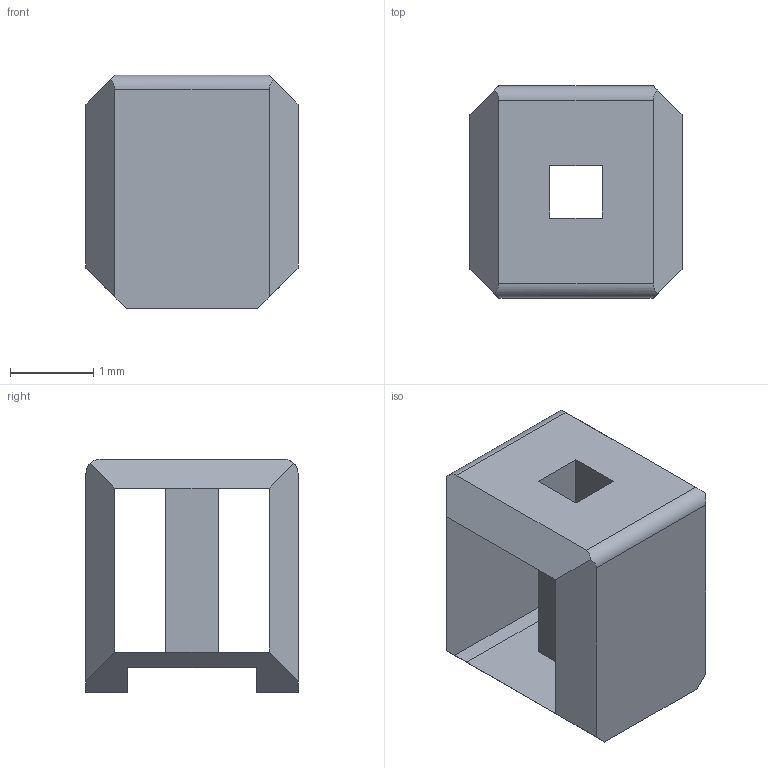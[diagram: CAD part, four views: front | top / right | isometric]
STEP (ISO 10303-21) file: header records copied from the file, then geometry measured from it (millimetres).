
FILE_DESCRIPTION(/* description */ ('STEP AP242 Edition 2','CAx-IF Rec.Pracs.---Representation and Presentation of Product Manufacturing Information (PMI)---4.0---2014-10-13','CAx-IF Rec.Pracs.---3D Tessellated Geometry---0.4---2014-09-14','2;1','CAx-IF Rec.Pracs.---User Defined Attributes---1.5---2016-08-15'),/* implementation_level */ '2;1');
FILE_NAME(/* name */ 'Drone Layout - 1x6 TH Pitch 2.54mm v1-1__Body8',/* time_stamp */ '2026-10-04T22:22:49Z',/* author */ (''),/* organization */ (''),/* preprocessor_version */ 'ST-DEVELOPER v20',/* originating_system */ 'ONSHAPE BY PTC INC, 1.221',/* authorisation */ ' ');
FILE_SCHEMA (('AP242_MANAGED_MODEL_BASED_3D_ENGINEERING_MIM_LF { 1 0 10303 442 3 1 4 }'));
Length unit declared in the file: metre
Products named in the file (1): 1x6 TH Pitch 2.54mm v1:1__Body8
Bounding box: 2.54 x 2.54 x 2.8 mm (x, y, z)
Surface area: 34.8 mm2 (no closed solid volume)
Topology: 0 solids, 1 shells, 22 faces, 66 edges, 44 vertices
Faces by surface type: plane 20, cylinder 2
Entity records: 744 total; most frequent: CARTESIAN_POINT 149, ORIENTED_EDGE 124, DIRECTION 104, EDGE_CURVE 66, LINE 58, VECTOR 58, VERTEX_POINT 44, EDGE_LOOP 24
